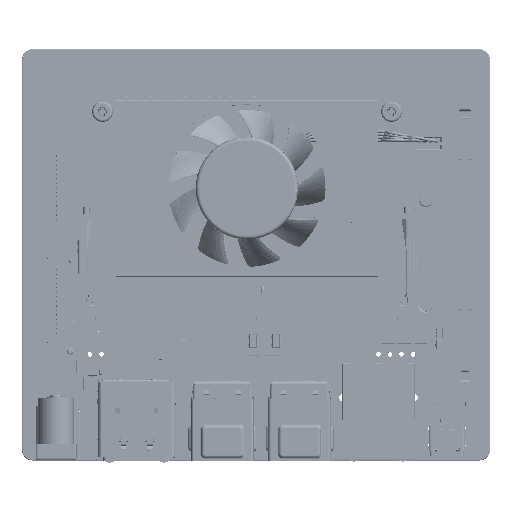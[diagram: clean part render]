
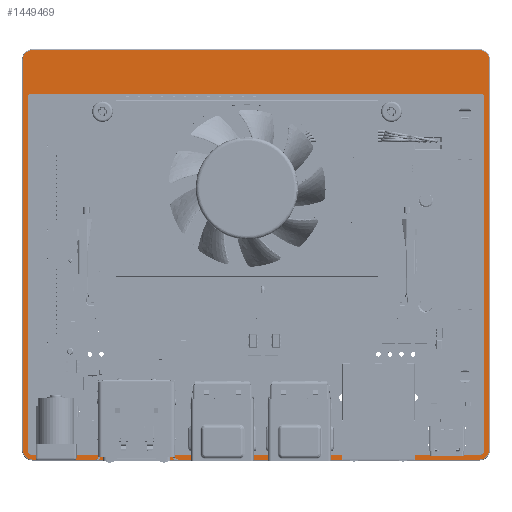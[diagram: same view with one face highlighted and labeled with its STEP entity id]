
A CAD part, top view. The second image highlights one B-rep face of the part: STEP entity #1449469.
In plain terms, the highlighted planar face has unit normal (0, 0, 1).
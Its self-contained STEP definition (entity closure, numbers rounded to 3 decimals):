
#1417172=CARTESIAN_POINT('',(84.2,39.15,-6.66));
#1417173=DIRECTION('',(0.,0.,1.));
#1417174=DIRECTION('',(1.,0.,0.));
#1417175=AXIS2_PLACEMENT_3D('',#1417172,#1417173,#1417174);
#1417180=DIRECTION('',(-1.,0.,0.));
#1417181=VECTOR('',#1417180,98.8);
#1417182=CARTESIAN_POINT('',(84.2,40.006,-6.66));
#1417183=LINE('',#1417182,#1417181);
#1417187=CARTESIAN_POINT('',(-14.6,39.15,-6.66));
#1417188=DIRECTION('',(0.,0.,1.));
#1417189=DIRECTION('',(0.,1.,0.));
#1417190=AXIS2_PLACEMENT_3D('',#1417187,#1417188,#1417189);
#1417195=DIRECTION('',(0.,-1.,0.));
#1417196=VECTOR('',#1417195,77.8);
#1417197=CARTESIAN_POINT('',(-15.456,39.15,-6.66));
#1417198=LINE('',#1417197,#1417196);
#1417202=CARTESIAN_POINT('',(-14.6,-38.65,-6.66));
#1417203=DIRECTION('',(0.,0.,1.));
#1417204=DIRECTION('',(-1.,0.,0.));
#1417205=AXIS2_PLACEMENT_3D('',#1417202,#1417203,#1417204);
#1417210=DIRECTION('',(1.,0.,0.));
#1417211=VECTOR('',#1417210,98.8);
#1417212=CARTESIAN_POINT('',(-14.6,-39.506,-6.66));
#1417213=LINE('',#1417212,#1417211);
#1417217=CARTESIAN_POINT('',(84.2,-38.65,-6.66));
#1417218=DIRECTION('',(0.,0.,1.));
#1417219=DIRECTION('',(0.,-1.,0.));
#1417220=AXIS2_PLACEMENT_3D('',#1417217,#1417218,#1417219);
#1417225=DIRECTION('',(0.,1.,0.));
#1417226=VECTOR('',#1417225,77.8);
#1417227=CARTESIAN_POINT('',(85.056,-38.65,-6.66));
#1417228=LINE('',#1417227,#1417226);
#1417232=CARTESIAN_POINT('',(-14.4,-38.45,-6.66));
#1417233=DIRECTION('',(0.,0.,1.));
#1417234=DIRECTION('',(-1.,0.,0.));
#1417235=AXIS2_PLACEMENT_3D('',#1417232,#1417233,#1417234);
#1417240=DIRECTION('',(0.,-1.,0.));
#1417241=VECTOR('',#1417240,85.9);
#1417242=CARTESIAN_POINT('',(-16.5,47.45,-6.66));
#1417243=LINE('',#1417242,#1417241);
#1417247=CARTESIAN_POINT('',(-14.4,47.45,-6.66));
#1417248=DIRECTION('',(0.,0.,1.));
#1417249=DIRECTION('',(0.,1.,0.));
#1417250=AXIS2_PLACEMENT_3D('',#1417247,#1417248,#1417249);
#1417255=DIRECTION('',(-1.,0.,0.));
#1417256=VECTOR('',#1417255,98.4);
#1417257=CARTESIAN_POINT('',(84.,49.55,-6.66));
#1417258=LINE('',#1417257,#1417256);
#1417262=CARTESIAN_POINT('',(84.,47.45,-6.66));
#1417263=DIRECTION('',(0.,0.,1.));
#1417264=DIRECTION('',(1.,0.,0.));
#1417265=AXIS2_PLACEMENT_3D('',#1417262,#1417263,#1417264);
#1417270=DIRECTION('',(0.,1.,0.));
#1417271=VECTOR('',#1417270,85.9);
#1417272=CARTESIAN_POINT('',(86.1,-38.45,-6.66));
#1417273=LINE('',#1417272,#1417271);
#1417277=CARTESIAN_POINT('',(84.,-38.45,-6.66));
#1417278=DIRECTION('',(0.,0.,1.));
#1417279=DIRECTION('',(0.,-1.,0.));
#1417280=AXIS2_PLACEMENT_3D('',#1417277,#1417278,#1417279);
#1417285=DIRECTION('',(1.,0.,0.));
#1417286=VECTOR('',#1417285,98.4);
#1417287=CARTESIAN_POINT('',(-14.4,-40.55,-6.66));
#1417288=LINE('',#1417287,#1417286);
#1445228=CARTESIAN_POINT('',(84.2,40.006,-6.66));
#1445229=CARTESIAN_POINT('',(-14.6,40.006,-6.66));
#1445230=VERTEX_POINT('',#1445228);
#1445231=VERTEX_POINT('',#1445229);
#1445232=CARTESIAN_POINT('',(-15.456,-38.65,-6.66));
#1445233=CARTESIAN_POINT('',(-14.6,-39.506,-6.66));
#1445234=VERTEX_POINT('',#1445232);
#1445235=VERTEX_POINT('',#1445233);
#1445236=CARTESIAN_POINT('',(84.2,-39.506,-6.66));
#1445237=VERTEX_POINT('',#1445236);
#1445238=CARTESIAN_POINT('',(85.056,-38.65,-6.66));
#1445239=VERTEX_POINT('',#1445238);
#1445270=CARTESIAN_POINT('',(85.056,39.15,-6.66));
#1445271=VERTEX_POINT('',#1445270);
#1445272=CARTESIAN_POINT('',(-15.456,39.15,-6.66));
#1445273=VERTEX_POINT('',#1445272);
#1445792=CARTESIAN_POINT('',(-16.5,-38.45,-6.66));
#1445793=CARTESIAN_POINT('',(-14.4,-40.55,-6.66));
#1445794=VERTEX_POINT('',#1445792);
#1445795=VERTEX_POINT('',#1445793);
#1445800=CARTESIAN_POINT('',(84.,-40.55,-6.66));
#1445801=VERTEX_POINT('',#1445800);
#1445804=CARTESIAN_POINT('',(86.1,-38.45,-6.66));
#1445805=VERTEX_POINT('',#1445804);
#1445808=CARTESIAN_POINT('',(86.1,47.45,-6.66));
#1445809=VERTEX_POINT('',#1445808);
#1445812=CARTESIAN_POINT('',(84.,49.55,-6.66));
#1445813=VERTEX_POINT('',#1445812);
#1445816=CARTESIAN_POINT('',(-14.4,49.55,-6.66));
#1445817=VERTEX_POINT('',#1445816);
#1445820=CARTESIAN_POINT('',(-16.5,47.45,-6.66));
#1445821=VERTEX_POINT('',#1445820);
#1449428=CARTESIAN_POINT('',(0.,0.,-6.66));
#1449429=DIRECTION('',(0.,0.,1.));
#1449430=DIRECTION('',(1.,0.,0.));
#1449431=AXIS2_PLACEMENT_3D('',#1449428,#1449429,#1449430);
#1449432=PLANE('',#1449431);
#1449434=ORIENTED_EDGE('',*,*,#1449433,.F.);
#1449436=ORIENTED_EDGE('',*,*,#1449435,.F.);
#1449438=ORIENTED_EDGE('',*,*,#1449437,.F.);
#1449440=ORIENTED_EDGE('',*,*,#1449439,.F.);
#1449442=ORIENTED_EDGE('',*,*,#1449441,.F.);
#1449444=ORIENTED_EDGE('',*,*,#1449443,.F.);
#1449446=ORIENTED_EDGE('',*,*,#1449445,.F.);
#1449448=ORIENTED_EDGE('',*,*,#1449447,.F.);
#1449449=EDGE_LOOP('',(#1449434,#1449436,#1449438,#1449440,#1449442,#1449444,
#1449446,#1449448));
#1449450=FACE_OUTER_BOUND('',#1449449,.F.);
#1449452=ORIENTED_EDGE('',*,*,#1449451,.T.);
#1449454=ORIENTED_EDGE('',*,*,#1449453,.T.);
#1449456=ORIENTED_EDGE('',*,*,#1449455,.T.);
#1449458=ORIENTED_EDGE('',*,*,#1449457,.T.);
#1449460=ORIENTED_EDGE('',*,*,#1449459,.T.);
#1449462=ORIENTED_EDGE('',*,*,#1449461,.T.);
#1449464=ORIENTED_EDGE('',*,*,#1449463,.T.);
#1449466=ORIENTED_EDGE('',*,*,#1449465,.T.);
#1449467=EDGE_LOOP('',(#1449452,#1449454,#1449456,#1449458,#1449460,#1449462,
#1449464,#1449466));
#1449468=FACE_BOUND('',#1449467,.F.);
#1449469=ADVANCED_FACE('',(#1449450,#1449468),#1449432,.T.);
#1417176=CIRCLE('',#1417175,0.856);
#1417191=CIRCLE('',#1417190,0.856);
#1417206=CIRCLE('',#1417205,0.856);
#1417221=CIRCLE('',#1417220,0.856);
#1417236=CIRCLE('',#1417235,2.1);
#1417251=CIRCLE('',#1417250,2.1);
#1417266=CIRCLE('',#1417265,2.1);
#1417281=CIRCLE('',#1417280,2.1);
#1449433=EDGE_CURVE('',#1445794,#1445795,#1417236,.T.);
#1449435=EDGE_CURVE('',#1445821,#1445794,#1417243,.T.);
#1449437=EDGE_CURVE('',#1445817,#1445821,#1417251,.T.);
#1449439=EDGE_CURVE('',#1445813,#1445817,#1417258,.T.);
#1449441=EDGE_CURVE('',#1445809,#1445813,#1417266,.T.);
#1449443=EDGE_CURVE('',#1445805,#1445809,#1417273,.T.);
#1449445=EDGE_CURVE('',#1445801,#1445805,#1417281,.T.);
#1449447=EDGE_CURVE('',#1445795,#1445801,#1417288,.T.);
#1449451=EDGE_CURVE('',#1445271,#1445230,#1417176,.T.);
#1449453=EDGE_CURVE('',#1445230,#1445231,#1417183,.T.);
#1449455=EDGE_CURVE('',#1445231,#1445273,#1417191,.T.);
#1449457=EDGE_CURVE('',#1445273,#1445234,#1417198,.T.);
#1449459=EDGE_CURVE('',#1445234,#1445235,#1417206,.T.);
#1449461=EDGE_CURVE('',#1445235,#1445237,#1417213,.T.);
#1449463=EDGE_CURVE('',#1445237,#1445239,#1417221,.T.);
#1449465=EDGE_CURVE('',#1445239,#1445271,#1417228,.T.);
